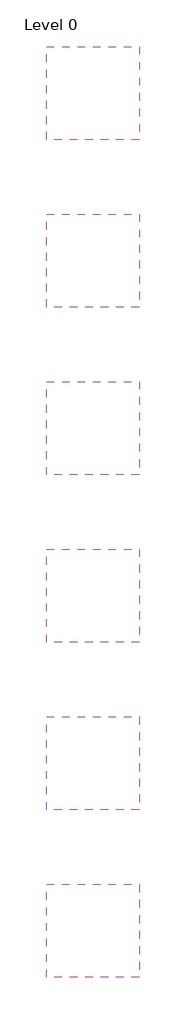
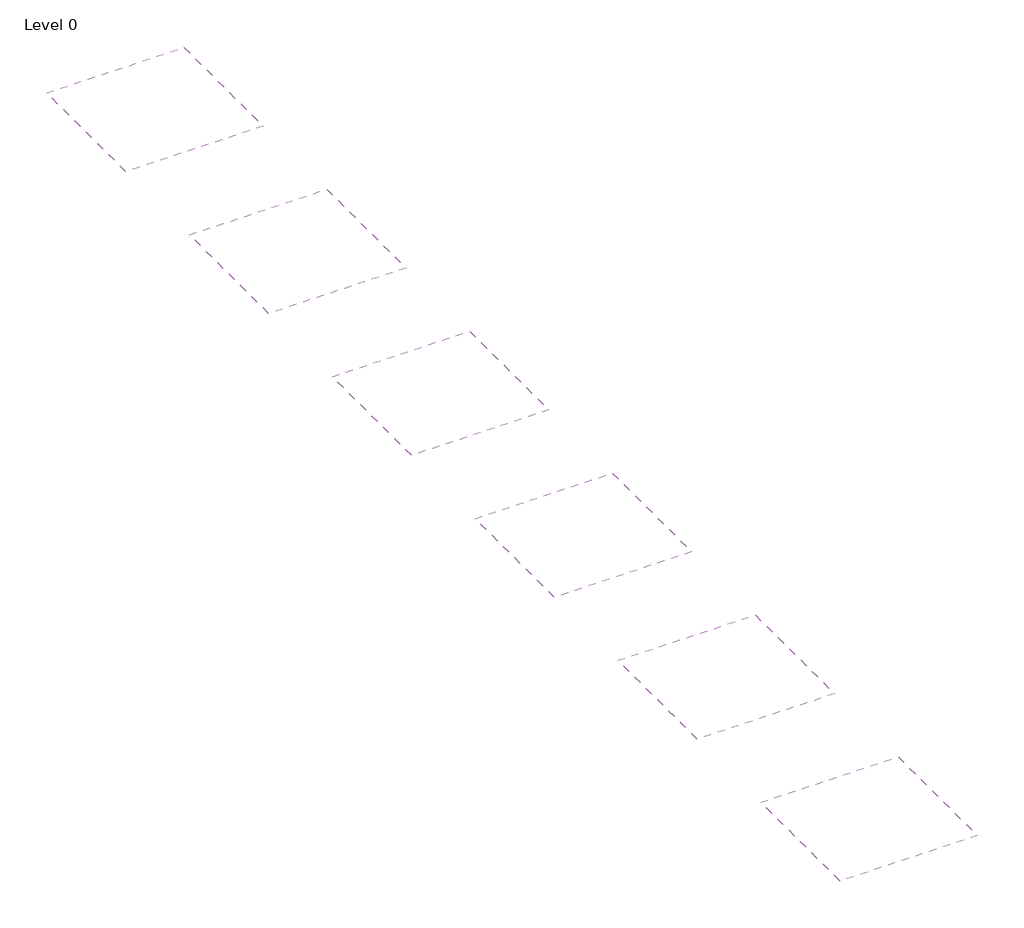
# One storey: 6 coverings.
"""IFC4 building model written with IfcOpenShell, lengths in millimetres."""

from ifc_helpers import new_model, si_unit, frame, origin, place, context, project, spatial, polyline, outline, extrude, element, save

model = new_model("IFC4")

# Units and contexts
model_context = context("Model", 3, world=origin())
ifc_project = project(units=[si_unit("LENGTHUNIT", "METRE", prefix="MILLI")], contexts=[model_context])

# Site, building, storey
site = spatial("IfcSite", under=ifc_project)
building = spatial("IfcBuilding", under=site)
storey = spatial("IfcBuildingStorey", under=building, Name="Level 0", Elevation=0.0)

# Coverings
placement = place(None, origin())
element("IfcCovering", 1, ObjectType="NBS_Zentia_ModularSuspendedCeilingSystems_OpliaHA_BoardEdgeProfiles15mmThick", at=placement, inside=storey, context=model_context, shape_type="SweptSolid", body=[
    extrude(outline(polyline([(2999.979, -1632.9947682), (2999.979, -4132.9947682), (499.979, -4132.9947682), (499.979, -1632.9947682), (2999.979, -1632.9947682)])), frame((0.0, 0.0, 2600.0), z_axis=(0.0, 0.0, 1.0), x_axis=(1.0, 0.0, 0.0)), (0.0, 0.0, 1.0), 15.0),
])
element("IfcCovering", 2, ObjectType="NBS_Zentia_ModularSuspendedCeilingSystems_OpliaHA_BoardEdgeProfiles19mmThick", at=placement, inside=storey, context=model_context, shape_type="SweptSolid", body=[
    extrude(outline(polyline([(2999.979, -6132.9947682), (2999.979, -8632.9947682), (499.979, -8632.9947682), (499.979, -6132.9947682), (2999.979, -6132.9947682)])), frame((0.0, 0.0, 2600.0), z_axis=(0.0, 0.0, 1.0), x_axis=(1.0, 0.0, 0.0)), (0.0, 0.0, 1.0), 19.0),
])
element("IfcCovering", 3, ObjectType="NBS_Zentia_ModularSuspendedCeilingSystems_OpliaHA_SL2EdgeProfiles19mmThick", at=placement, inside=storey, context=model_context, shape_type="SweptSolid", body=[
    extrude(outline(polyline([(2999.979, -10632.9947682), (2999.979, -13132.9947682), (499.979, -13132.9947682), (499.979, -10632.9947682), (2999.979, -10632.9947682)])), frame((0.0, 0.0, 2600.0), z_axis=(0.0, 0.0, 1.0), x_axis=(1.0, 0.0, 0.0)), (0.0, 0.0, 1.0), 19.0),
])
element("IfcCovering", 4, ObjectType="NBS_Zentia_ModularSuspendedCeilingSystems_OpliaHA_Tegular15EdgeProfiles15mmThick", at=placement, inside=storey, context=model_context, shape_type="SweptSolid", body=[
    extrude(outline(polyline([(2999.979, -15132.9947682), (2999.979, -17632.9947682), (499.979, -17632.9947682), (499.979, -15132.9947682), (2999.979, -15132.9947682)])), frame((0.0, 0.0, 2600.0), z_axis=(0.0, 0.0, 1.0), x_axis=(1.0, 0.0, 0.0)), (0.0, 0.0, 1.0), 15.0),
])
element("IfcCovering", 5, ObjectType="NBS_Zentia_ModularSuspendedCeilingSystems_OpliaHA_Tegular15EdgeProfiles19mmThick", at=placement, inside=storey, context=model_context, shape_type="SweptSolid", body=[
    extrude(outline(polyline([(2999.979, -19632.9947682), (2999.979, -22132.9947682), (499.979, -22132.9947682), (499.979, -19632.9947682), (2999.979, -19632.9947682)])), frame((0.0, 0.0, 2600.0), z_axis=(0.0, 0.0, 1.0), x_axis=(1.0, 0.0, 0.0)), (0.0, 0.0, 1.0), 19.0),
])
element("IfcCovering", 6, ObjectType="NBS_Zentia_ModularSuspendedCeilingSystems_OpliaHA_Tegular24EdgeProfiles15mmThick", at=placement, inside=storey, context=model_context, shape_type="SweptSolid", body=[
    extrude(outline(polyline([(2999.979, -24132.9947682), (2999.979, -26632.9947682), (499.979, -26632.9947682), (499.979, -24132.9947682), (2999.979, -24132.9947682)])), frame((0.0, 0.0, 2600.0), z_axis=(0.0, 0.0, 1.0), x_axis=(1.0, 0.0, 0.0)), (0.0, 0.0, 1.0), 15.0),
])

save(model, "model.ifc")
